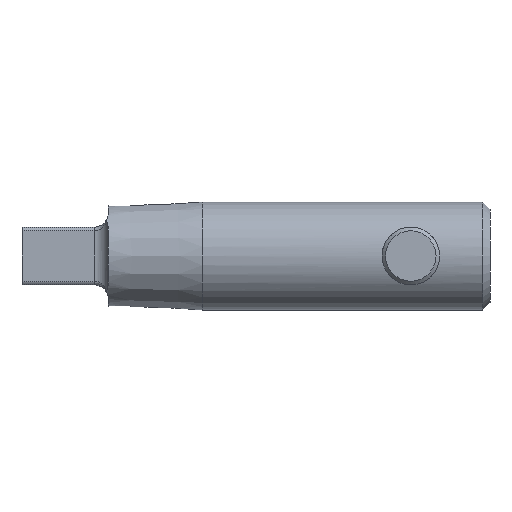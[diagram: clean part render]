
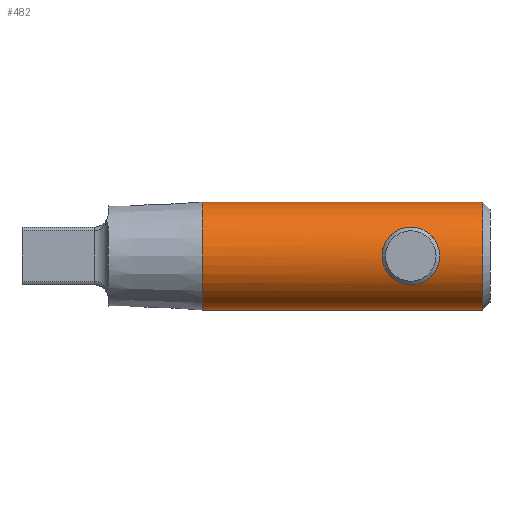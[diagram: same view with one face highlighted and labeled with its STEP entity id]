
A CAD part, left-side view. The second image highlights one B-rep face of the part: STEP entity #482.
In plain terms, the highlighted cylindrical face has radius 7.5 mm (diameter 15 mm), a full revolution.
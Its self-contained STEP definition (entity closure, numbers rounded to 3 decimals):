
#27=FACE_BOUND('',#107,.T.);
#40=B_SPLINE_CURVE_WITH_KNOTS('',3,(#729,#730,#731,#732,#733,#734,#735,
#736,#737,#738,#739,#740,#741,#742,#743,#744,#745,#746,#747,#748,#749,#750,
#751,#752,#753,#754),.UNSPECIFIED.,.F.,.F.,(4,2,2,2,2,2,2,2,2,2,2,2,4),
(0.,0.155,0.309,0.463,0.617,
0.771,0.925,1.08,1.234,1.389,
1.543,1.697,1.851),.UNSPECIFIED.);
#41=B_SPLINE_CURVE_WITH_KNOTS('',3,(#755,#756,#757,#758,#759,#760,#761,
#762,#763,#764),.UNSPECIFIED.,.F.,.F.,(4,2,2,2,4),(1.851,2.005,
2.159,2.314,2.468),.UNSPECIFIED.);
#42=B_SPLINE_CURVE_WITH_KNOTS('',3,(#775,#776,#777,#778,#779,#780,#781,
#782,#783,#784),.UNSPECIFIED.,.F.,.F.,(4,2,2,2,4),(0.,0.155,
0.309,0.463,0.617),.UNSPECIFIED.);
#43=B_SPLINE_CURVE_WITH_KNOTS('',3,(#786,#787,#788,#789,#790,#791,#792,
#793,#794,#795),.UNSPECIFIED.,.F.,.F.,(4,2,2,2,4),(1.851,2.005,
2.159,2.314,2.468),.UNSPECIFIED.);
#44=B_SPLINE_CURVE_WITH_KNOTS('',3,(#796,#797,#798,#799,#800,#801,#802,
#803,#804,#805,#806,#807,#808,#809,#810,#811,#812,#813),.UNSPECIFIED.,.F.,
 .F.,(4,2,2,2,2,2,2,2,4),(0.617,0.771,0.925,
1.08,1.234,1.389,1.543,1.697,
1.851),.UNSPECIFIED.);
#59=CYLINDRICAL_SURFACE('',#536,7.5);
#75=FACE_OUTER_BOUND('',#106,.T.);
#106=EDGE_LOOP('',(#350,#351,#352,#353,#354,#355,#356,#357,#358));
#107=EDGE_LOOP('',(#359,#360));
#136=LINE('',#825,#164);
#137=LINE('',#826,#165);
#164=VECTOR('',#615,7.5);
#165=VECTOR('',#616,7.5);
#192=CIRCLE('',#535,7.5);
#193=CIRCLE('',#537,7.5);
#209=VERTEX_POINT('',#726);
#210=VERTEX_POINT('',#728);
#213=VERTEX_POINT('',#773);
#214=VERTEX_POINT('',#774);
#215=VERTEX_POINT('',#785);
#217=VERTEX_POINT('',#819);
#218=VERTEX_POINT('',#823);
#256=EDGE_CURVE('',#210,#209,#40,.T.);
#257=EDGE_CURVE('',#209,#210,#41,.T.);
#261=EDGE_CURVE('',#213,#214,#42,.T.);
#262=EDGE_CURVE('',#215,#213,#43,.T.);
#263=EDGE_CURVE('',#214,#215,#44,.T.);
#267=EDGE_CURVE('',#217,#217,#192,.T.);
#268=EDGE_CURVE('',#218,#218,#193,.T.);
#269=EDGE_CURVE('',#218,#214,#136,.T.);
#270=EDGE_CURVE('',#215,#217,#137,.T.);
#350=ORIENTED_EDGE('',*,*,#268,.F.);
#351=ORIENTED_EDGE('',*,*,#269,.T.);
#352=ORIENTED_EDGE('',*,*,#263,.T.);
#353=ORIENTED_EDGE('',*,*,#270,.T.);
#354=ORIENTED_EDGE('',*,*,#267,.F.);
#355=ORIENTED_EDGE('',*,*,#270,.F.);
#356=ORIENTED_EDGE('',*,*,#262,.T.);
#357=ORIENTED_EDGE('',*,*,#261,.T.);
#358=ORIENTED_EDGE('',*,*,#269,.F.);
#359=ORIENTED_EDGE('',*,*,#256,.T.);
#360=ORIENTED_EDGE('',*,*,#257,.T.);
#482=ADVANCED_FACE('',(#75,#27),#59,.T.);
#535=AXIS2_PLACEMENT_3D('',#821,#609,#610);
#536=AXIS2_PLACEMENT_3D('',#822,#611,#612);
#537=AXIS2_PLACEMENT_3D('',#824,#613,#614);
#609=DIRECTION('center_axis',(0.,-1.,0.));
#610=DIRECTION('ref_axis',(1.,0.,0.));
#611=DIRECTION('center_axis',(0.,1.,0.));
#612=DIRECTION('ref_axis',(1.,0.,0.));
#613=DIRECTION('center_axis',(0.,1.,0.));
#614=DIRECTION('ref_axis',(1.,0.,0.));
#615=DIRECTION('',(0.,-1.,0.));
#616=DIRECTION('',(0.,-1.,0.));
#726=CARTESIAN_POINT('',(7.5,15.,0.));
#728=CARTESIAN_POINT('',(6.344,11.,-4.));
#729=CARTESIAN_POINT('Ctrl Pts',(6.344,11.,-4.));
#730=CARTESIAN_POINT('Ctrl Pts',(6.344,10.485,-4.));
#731=CARTESIAN_POINT('Ctrl Pts',(6.414,9.945,-3.895));
#732=CARTESIAN_POINT('Ctrl Pts',(6.646,8.964,-3.484));
#733=CARTESIAN_POINT('Ctrl Pts',(6.804,8.522,-3.178));
#734=CARTESIAN_POINT('Ctrl Pts',(7.088,7.823,-2.48));
#735=CARTESIAN_POINT('Ctrl Pts',(7.236,7.516,-2.037));
#736=CARTESIAN_POINT('Ctrl Pts',(7.443,7.105,-1.054));
#737=CARTESIAN_POINT('Ctrl Pts',(7.5,7.,-0.513));
#738=CARTESIAN_POINT('Ctrl Pts',(7.5,7.,0.513));
#739=CARTESIAN_POINT('Ctrl Pts',(7.443,7.105,1.054));
#740=CARTESIAN_POINT('Ctrl Pts',(7.236,7.516,2.037));
#741=CARTESIAN_POINT('Ctrl Pts',(7.088,7.823,2.48));
#742=CARTESIAN_POINT('Ctrl Pts',(6.804,8.522,3.178));
#743=CARTESIAN_POINT('Ctrl Pts',(6.646,8.964,3.484));
#744=CARTESIAN_POINT('Ctrl Pts',(6.414,9.945,3.895));
#745=CARTESIAN_POINT('Ctrl Pts',(6.344,10.485,4.));
#746=CARTESIAN_POINT('Ctrl Pts',(6.344,11.515,4.));
#747=CARTESIAN_POINT('Ctrl Pts',(6.414,12.055,3.895));
#748=CARTESIAN_POINT('Ctrl Pts',(6.646,13.036,3.484));
#749=CARTESIAN_POINT('Ctrl Pts',(6.804,13.478,3.178));
#750=CARTESIAN_POINT('Ctrl Pts',(7.088,14.177,2.48));
#751=CARTESIAN_POINT('Ctrl Pts',(7.236,14.484,2.037));
#752=CARTESIAN_POINT('Ctrl Pts',(7.443,14.895,1.054));
#753=CARTESIAN_POINT('Ctrl Pts',(7.5,15.,0.513));
#754=CARTESIAN_POINT('Ctrl Pts',(7.5,15.,0.));
#755=CARTESIAN_POINT('Ctrl Pts',(7.5,15.,0.));
#756=CARTESIAN_POINT('Ctrl Pts',(7.5,15.,-0.513));
#757=CARTESIAN_POINT('Ctrl Pts',(7.443,14.895,-1.054));
#758=CARTESIAN_POINT('Ctrl Pts',(7.236,14.484,-2.037));
#759=CARTESIAN_POINT('Ctrl Pts',(7.088,14.177,-2.48));
#760=CARTESIAN_POINT('Ctrl Pts',(6.804,13.478,-3.178));
#761=CARTESIAN_POINT('Ctrl Pts',(6.646,13.036,-3.484));
#762=CARTESIAN_POINT('Ctrl Pts',(6.414,12.055,-3.895));
#763=CARTESIAN_POINT('Ctrl Pts',(6.344,11.515,-4.));
#764=CARTESIAN_POINT('Ctrl Pts',(6.344,11.,-4.));
#773=CARTESIAN_POINT('',(-6.344,11.,-4.));
#774=CARTESIAN_POINT('',(-7.5,15.,0.));
#775=CARTESIAN_POINT('Ctrl Pts',(-6.344,11.,-4.));
#776=CARTESIAN_POINT('Ctrl Pts',(-6.344,11.515,-4.));
#777=CARTESIAN_POINT('Ctrl Pts',(-6.414,12.055,-3.895));
#778=CARTESIAN_POINT('Ctrl Pts',(-6.646,13.036,-3.484));
#779=CARTESIAN_POINT('Ctrl Pts',(-6.804,13.478,-3.178));
#780=CARTESIAN_POINT('Ctrl Pts',(-7.088,14.177,-2.48));
#781=CARTESIAN_POINT('Ctrl Pts',(-7.236,14.484,-2.037));
#782=CARTESIAN_POINT('Ctrl Pts',(-7.443,14.895,-1.054));
#783=CARTESIAN_POINT('Ctrl Pts',(-7.5,15.,-0.513));
#784=CARTESIAN_POINT('Ctrl Pts',(-7.5,15.,0.));
#785=CARTESIAN_POINT('',(-7.5,7.,0.));
#786=CARTESIAN_POINT('Ctrl Pts',(-7.5,7.,0.));
#787=CARTESIAN_POINT('Ctrl Pts',(-7.5,7.,-0.513));
#788=CARTESIAN_POINT('Ctrl Pts',(-7.443,7.105,-1.054));
#789=CARTESIAN_POINT('Ctrl Pts',(-7.236,7.516,-2.037));
#790=CARTESIAN_POINT('Ctrl Pts',(-7.088,7.823,-2.48));
#791=CARTESIAN_POINT('Ctrl Pts',(-6.804,8.522,-3.178));
#792=CARTESIAN_POINT('Ctrl Pts',(-6.646,8.964,-3.484));
#793=CARTESIAN_POINT('Ctrl Pts',(-6.414,9.945,-3.895));
#794=CARTESIAN_POINT('Ctrl Pts',(-6.344,10.485,-4.));
#795=CARTESIAN_POINT('Ctrl Pts',(-6.344,11.,-4.));
#796=CARTESIAN_POINT('Ctrl Pts',(-7.5,15.,0.));
#797=CARTESIAN_POINT('Ctrl Pts',(-7.5,15.,0.513));
#798=CARTESIAN_POINT('Ctrl Pts',(-7.443,14.895,1.054));
#799=CARTESIAN_POINT('Ctrl Pts',(-7.236,14.484,2.037));
#800=CARTESIAN_POINT('Ctrl Pts',(-7.088,14.177,2.48));
#801=CARTESIAN_POINT('Ctrl Pts',(-6.804,13.478,3.178));
#802=CARTESIAN_POINT('Ctrl Pts',(-6.646,13.036,3.484));
#803=CARTESIAN_POINT('Ctrl Pts',(-6.414,12.055,3.895));
#804=CARTESIAN_POINT('Ctrl Pts',(-6.344,11.515,4.));
#805=CARTESIAN_POINT('Ctrl Pts',(-6.344,10.485,4.));
#806=CARTESIAN_POINT('Ctrl Pts',(-6.414,9.945,3.895));
#807=CARTESIAN_POINT('Ctrl Pts',(-6.646,8.964,3.484));
#808=CARTESIAN_POINT('Ctrl Pts',(-6.804,8.522,3.178));
#809=CARTESIAN_POINT('Ctrl Pts',(-7.088,7.823,2.48));
#810=CARTESIAN_POINT('Ctrl Pts',(-7.236,7.516,2.037));
#811=CARTESIAN_POINT('Ctrl Pts',(-7.443,7.105,1.054));
#812=CARTESIAN_POINT('Ctrl Pts',(-7.5,7.,0.513));
#813=CARTESIAN_POINT('Ctrl Pts',(-7.5,7.,0.));
#819=CARTESIAN_POINT('',(-7.5,1.,0.));
#821=CARTESIAN_POINT('Origin',(0.,1.,0.));
#822=CARTESIAN_POINT('Origin',(0.,0.,0.));
#823=CARTESIAN_POINT('',(-7.5,40.,0.));
#824=CARTESIAN_POINT('Origin',(0.,40.,0.));
#825=CARTESIAN_POINT('',(-7.5,0.,0.));
#826=CARTESIAN_POINT('',(-7.5,0.,0.));
